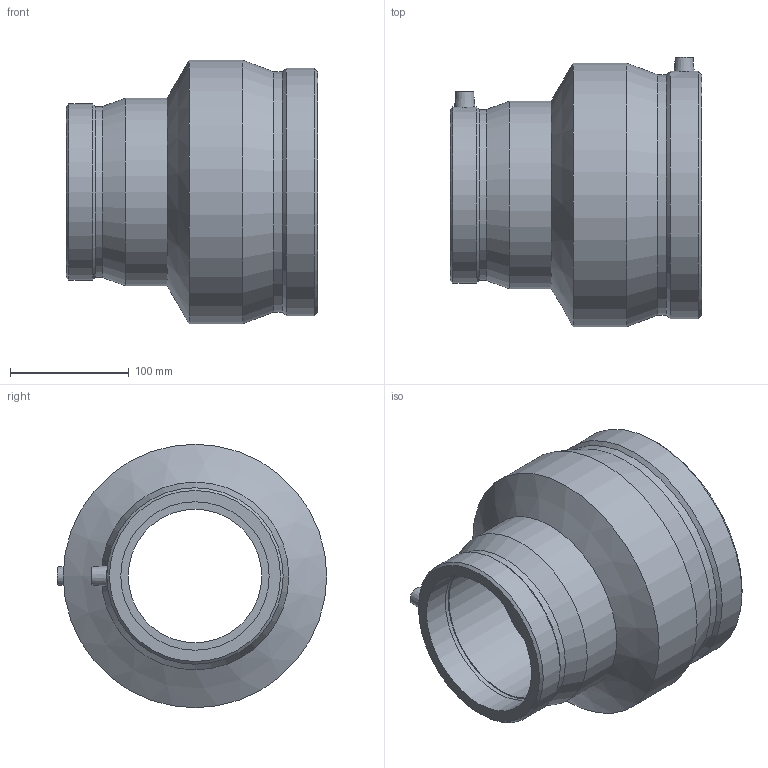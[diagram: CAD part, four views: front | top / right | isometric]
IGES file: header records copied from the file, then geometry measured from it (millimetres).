
Global section: file name: 491104180125.ipt; native system: Autodesk Inventor 2015; preprocessor: unknown; author: KIM; date: 20171106.093743; units: millimetre
Bounding box: 212 x 227 x 222 mm (x, y, z)
Volume: 1939542.8 mm3; surface area: 268273.9 mm2
Topology: 1 solids, 1 shells, 39 faces, 87 edges, 58 vertices
Faces by surface type: plane 12, revolution 10, cone 9, cylinder 8
Full cylindrical faces by diameter (mm): 4 x2, 144.064 x1, 148.52 x1, 158 x1, 202.42 x1, 208.68 x1, 222 x1
